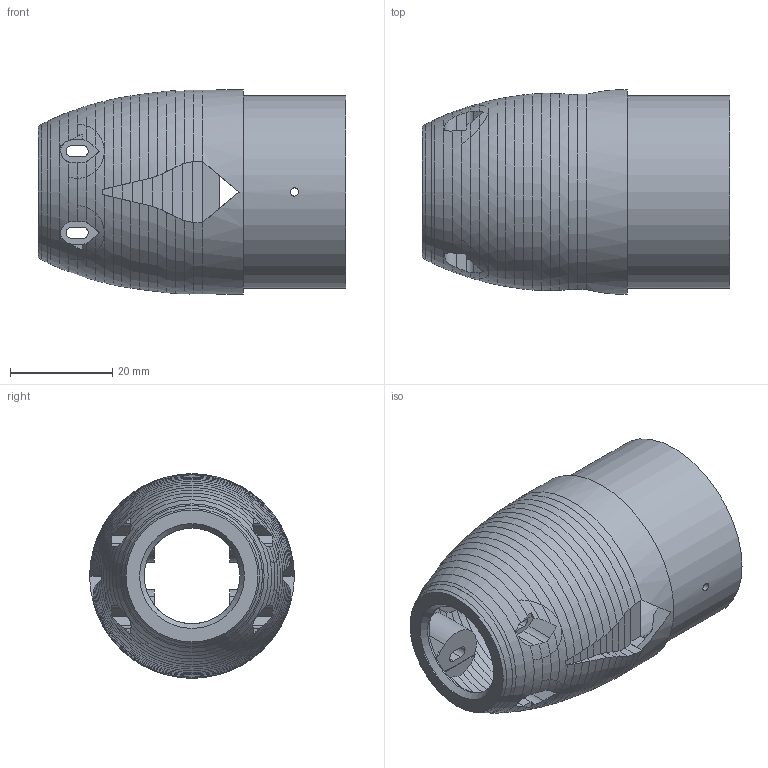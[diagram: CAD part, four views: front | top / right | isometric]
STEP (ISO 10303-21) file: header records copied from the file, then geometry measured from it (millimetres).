
FILE_DESCRIPTION(('SkyG Speed 90B - revision C6B-14 - 2026-10-11','N0O-nose-dji-o4'),'2;1');
FILE_NAME('N0O-nose-dji-o4_C6B-14','2026-10-11T22:36:03',('Author'),( 'Open CASCADE'),'Open CASCADE STEP processor 7.9','Open CASCADE 7.9' ,'Unknown');
FILE_SCHEMA(('AUTOMOTIVE_DESIGN { 1 0 10303 214 1 1 1 1 }'));
Length unit declared in the file: millimetre
Products named in the file (1): N0O-nose-dji-o4 C6B-14
Bounding box: 60.1 x 40 x 40 mm (x, y, z)
Volume: 13360.1 mm3; surface area: 15924.1 mm2
Topology: 1 solids, 1 shells, 475 faces, 1343 edges, 866 vertices
Faces by surface type: plane 214, cone 135, bspline 68, cylinder 58
Full cylindrical faces by diameter (mm): 1.6 x2, 2 x1, 18.657 x1, 20.5 x1, 33.8 x1, 37.7 x1, 40 x1
Entity records: 40295 total; most frequent: CARTESIAN_POINT 16073, DIRECTION 3792, ORIENTED_EDGE 2686, PCURVE 2686, DEFINITIONAL_REPRESENTATION 2686, LINE 1780, VECTOR 1780, B_SPLINE_CURVE_WITH_KNOTS 1460
